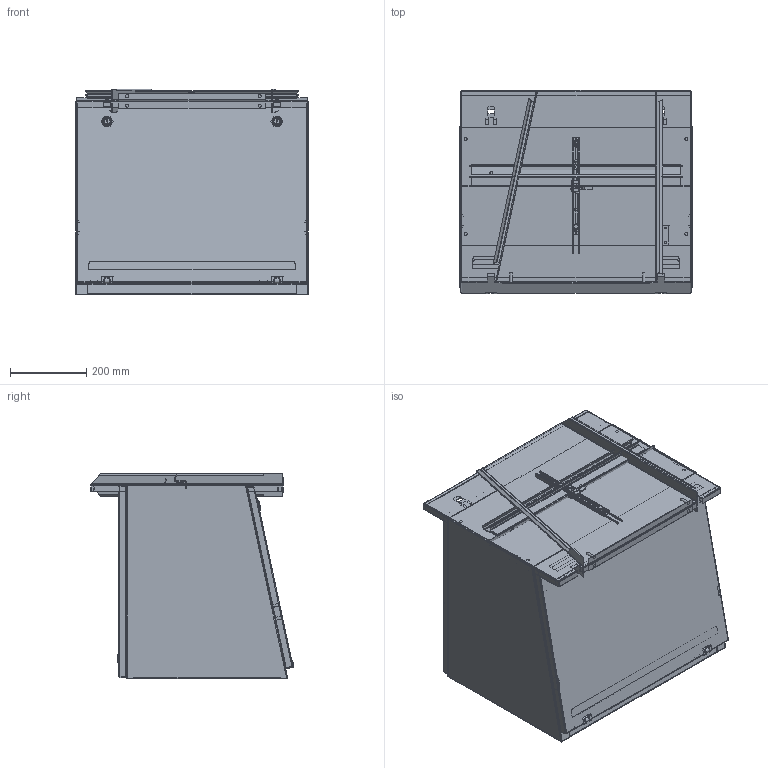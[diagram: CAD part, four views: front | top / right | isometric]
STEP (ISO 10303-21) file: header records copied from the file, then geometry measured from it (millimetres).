
FILE_DESCRIPTION( ( 'Unknown' ), '1' );
FILE_NAME( 'Q:/2000 SERIES/TURRET UNITS/WEB DRAWINGS/STEP/2CST202436.stp', 'Unknown', ( 'Unknown' ), ( 'Unknown' ), 'XStep 1.0', 'Unknown', ' ' );
FILE_SCHEMA( ( 'CONFIG_CONTROL_DESIGN' ) );
Length unit declared in the file: millimetre
Products named in the file (46): Assem1; Assem2; Assem3; Assem4; Assem5; Assem6; Assem7; Assem8; Assem9; Assem10; Assem11; Assem12; 1; 2; 3; 4; 5; 6; 7; 8; 9; 10; 11; 12; 13; 14; 15; 16; 17; 18; 19; 20; 21; 22; 23; 24; 25; 26; 27; 28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
Bounding box: 609.6 x 533.07 x 538.94 mm (x, y, z)
Volume: 9871543 mm3; surface area: 10868527.6 mm2
Topology: 151 solids, 151 shells, 3411 faces, 8193 edges, 5204 vertices
Faces by surface type: plane 2251, cylinder 879, bspline 224, cone 30, torus 21, sphere 6
Full cylindrical faces by diameter (mm): 3.175 x12, 4.763 x15, 4.826 x6, 5 x12, 5.537 x10, 5.969 x6, 6 x6, 6.096 x6, 6.299 x4, 6.35 x44, 7.137 x19, 7.925 x4, 7.938 x32, 8.331 x4, 9.804 x5, 9.83 x12, 9.931 x7, 10.312 x4, 11.1 x4, 12.7 x18, 12.751 x4, 13.335 x6, 15.875 x6, 16.002 x6, 19.5 x6, 19.939 x6, 25.4 x6
Entity records: 28602 total; most frequent: CARTESIAN_POINT 7206, ORIENTED_EDGE 3896, DIRECTION 3890, EDGE_CURVE 1948, LINE 1360, VECTOR 1360, VERTEX_POINT 1269, AXIS2_PLACEMENT_3D 1265
